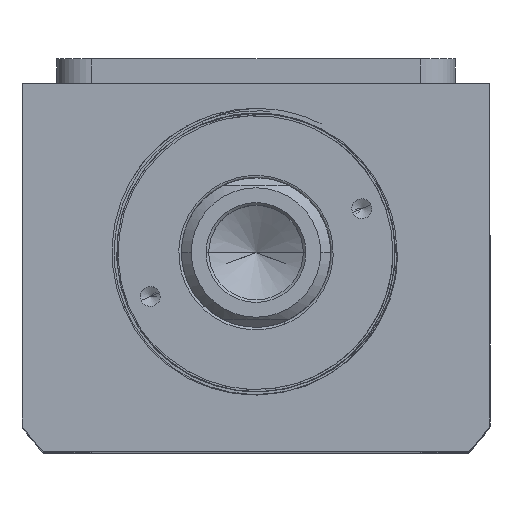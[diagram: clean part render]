
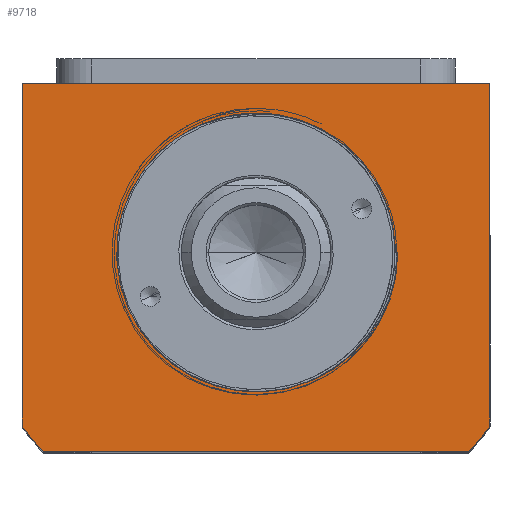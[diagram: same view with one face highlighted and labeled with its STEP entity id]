
A CAD part, top view. The second image highlights one B-rep face of the part: STEP entity #9718.
In plain terms, the highlighted planar face has unit normal (0, 0, 1).
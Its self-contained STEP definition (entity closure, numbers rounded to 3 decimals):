
#47 = VERTEX_POINT ( 'NONE', #6434 ) ;
#253 = ORIENTED_EDGE ( 'NONE', *, *, #9302, .T. ) ;
#400 = EDGE_CURVE ( 'NONE', #10443, #2448, #1902, .T. ) ;
#404 = LINE ( 'NONE', #2169, #8541 ) ;
#691 = CARTESIAN_POINT ( 'NONE',  ( 11.542, -25.544, 85. ) ) ;
#754 = DIRECTION ( 'NONE',  ( 1., 0., 0. ) ) ;
#823 = CIRCLE ( 'NONE', #9520, 58.5 ) ;
#844 = CARTESIAN_POINT ( 'NONE',  ( 10.89, -25.816, 85. ) ) ;
#921 = CARTESIAN_POINT ( 'NONE',  ( 47., 34., 85. ) ) ;
#1058 = CARTESIAN_POINT ( 'NONE',  ( 0., 0., 85. ) ) ;
#1174 = EDGE_LOOP ( 'NONE', ( #2404, #6249, #253 ) ) ;
#1426 = CARTESIAN_POINT ( 'NONE',  ( 0., 0., 85. ) ) ;
#1434 = ORIENTED_EDGE ( 'NONE', *, *, #400, .T. ) ;
#1558 = VERTEX_POINT ( 'NONE', #921 ) ;
#1571 = CARTESIAN_POINT ( 'NONE',  ( -47., -34.832, 85. ) ) ;
#1593 = ORIENTED_EDGE ( 'NONE', *, *, #6530, .T. ) ;
#1642 = CARTESIAN_POINT ( 'NONE',  ( 0., 0., 85. ) ) ;
#1656 = CARTESIAN_POINT ( 'NONE',  ( 28.485, -0.71, 85. ) ) ;
#1902 = CIRCLE ( 'NONE', #7553, 58.5 ) ;
#2135 = DIRECTION ( 'NONE',  ( 1., 0., 0. ) ) ;
#2169 = CARTESIAN_POINT ( 'NONE',  ( -47., 34., 85. ) ) ;
#2234 = ORIENTED_EDGE ( 'NONE', *, *, #9747, .T. ) ;
#2304 = LINE ( 'NONE', #1058, #8244 ) ;
#2404 = ORIENTED_EDGE ( 'NONE', *, *, #6887, .F. ) ;
#2448 = VERTEX_POINT ( 'NONE', #6478 ) ;
#2544 = CARTESIAN_POINT ( 'NONE',  ( 28.323, -2.832, 85. ) ) ;
#2549 = VERTEX_POINT ( 'NONE', #10246 ) ;
#2579 = CARTESIAN_POINT ( 'NONE',  ( 28.233, -3.538, 85. ) ) ;
#2623 = CARTESIAN_POINT ( 'NONE',  ( 24.178, -14.712, 85. ) ) ;
#2765 = VECTOR ( 'NONE', #754, 1000. ) ;
#2949 = ORIENTED_EDGE ( 'NONE', *, *, #4303, .T. ) ;
#3079 = VERTEX_POINT ( 'NONE', #9387 ) ;
#3086 = VERTEX_POINT ( 'NONE', #5854 ) ;
#3505 = DIRECTION ( 'NONE',  ( 0., 0., 1. ) ) ;
#3524 = CARTESIAN_POINT ( 'NONE',  ( 42.688, -40., 85. ) ) ;
#3886 = EDGE_CURVE ( 'NONE', #2448, #47, #7853, .T. ) ;
#3918 = FACE_BOUND ( 'NONE', #1174, .T. ) ;
#4283 = B_SPLINE_CURVE_WITH_KNOTS ( 'NONE', 3,
 ( #7996, #1656, #5317, #2544, #2579, #8028, #8856, #8894, #9756, #10680, #2623, #4361, #10646, #7908, #8933, #11437, #11558, #6190, #6224, #9796, #4288, #691, #844, #7874 ),
 .UNSPECIFIED., .F., .F.,
 ( 4, 2, 2, 2, 2, 2, 2, 2, 2, 2, 2, 4 ),
 ( 0., 0.002, 0.004, 0.009, 0.013, 0.017, 0.021, 0.023, 0.026, 0.03, 0.032, 0.034 ),
 .UNSPECIFIED. ) ;
#4288 = CARTESIAN_POINT ( 'NONE',  ( 12.831, -24.945, 85. ) ) ;
#4303 = EDGE_CURVE ( 'NONE', #3079, #10443, #6318, .T. ) ;
#4351 = EDGE_CURVE ( 'NONE', #47, #3086, #823, .T. ) ;
#4361 = CARTESIAN_POINT ( 'NONE',  ( 22.571, -17.007, 85. ) ) ;
#4387 = DIRECTION ( 'NONE',  ( 0., 1., 0. ) ) ;
#4410 = DIRECTION ( 'NONE',  ( 1., 0., 0. ) ) ;
#4428 = CARTESIAN_POINT ( 'NONE',  ( 28., 0., 85. ) ) ;
#4432 = DIRECTION ( 'NONE',  ( 1., 0., 0. ) ) ;
#5010 = VECTOR ( 'NONE', #4387, 1000. ) ;
#5317 = CARTESIAN_POINT ( 'NONE',  ( 28.449, -1.419, 85. ) ) ;
#5320 = CIRCLE ( 'NONE', #9064, 28. ) ;
#5466 = VECTOR ( 'NONE', #7845, 1000. ) ;
#5854 = CARTESIAN_POINT ( 'NONE',  ( 47., -34.832, 85. ) ) ;
#5959 = DIRECTION ( 'NONE',  ( 0., 0., -1. ) ) ;
#6190 = CARTESIAN_POINT ( 'NONE',  ( 16.467, -22.819, 85. ) ) ;
#6224 = CARTESIAN_POINT ( 'NONE',  ( 15.3, -23.593, 85. ) ) ;
#6249 = ORIENTED_EDGE ( 'NONE', *, *, #7454, .T. ) ;
#6251 = ORIENTED_EDGE ( 'NONE', *, *, #4351, .T. ) ;
#6318 = LINE ( 'NONE', #6944, #5466 ) ;
#6434 = CARTESIAN_POINT ( 'NONE',  ( 42.688, -40., 85. ) ) ;
#6478 = CARTESIAN_POINT ( 'NONE',  ( -42.688, -40., 85. ) ) ;
#6530 = EDGE_CURVE ( 'NONE', #3086, #1558, #6713, .T. ) ;
#6713 = LINE ( 'NONE', #7142, #5010 ) ;
#6868 = DIRECTION ( 'NONE',  ( 1., 0., 0. ) ) ;
#6887 = EDGE_CURVE ( 'NONE', #2549, #9458, #2304, .T. ) ;
#6944 = CARTESIAN_POINT ( 'NONE',  ( -47., -34.832, 85. ) ) ;
#7142 = CARTESIAN_POINT ( 'NONE',  ( 47., 34., 85. ) ) ;
#7242 = CARTESIAN_POINT ( 'NONE',  ( 0., 0., 85. ) ) ;
#7454 = EDGE_CURVE ( 'NONE', #2549, #11492, #4283, .T. ) ;
#7553 = AXIS2_PLACEMENT_3D ( 'NONE', #1642, #9825, #4432 ) ;
#7577 = AXIS2_PLACEMENT_3D ( 'NONE', #7585, #11062, #2135 ) ;
#7585 = CARTESIAN_POINT ( 'NONE',  ( 0., 0., 85. ) ) ;
#7635 = EDGE_LOOP ( 'NONE', ( #2234, #2949, #1434, #11283, #6251, #1593 ) ) ;
#7845 = DIRECTION ( 'NONE',  ( 0., -1., 0. ) ) ;
#7853 = LINE ( 'NONE', #3524, #2765 ) ;
#7874 = CARTESIAN_POINT ( 'NONE',  ( 10.232, -26.064, 85. ) ) ;
#7908 = CARTESIAN_POINT ( 'NONE',  ( 20.224, -19.631, 85. ) ) ;
#7996 = CARTESIAN_POINT ( 'NONE',  ( 28.495, 0., 85. ) ) ;
#8028 = CARTESIAN_POINT ( 'NONE',  ( 27.887, -5.628, 85. ) ) ;
#8244 = VECTOR ( 'NONE', #9144, 1000. ) ;
#8541 = VECTOR ( 'NONE', #11101, 1000. ) ;
#8856 = CARTESIAN_POINT ( 'NONE',  ( 27.555, -6.99, 85. ) ) ;
#8894 = CARTESIAN_POINT ( 'NONE',  ( 26.694, -9.657, 85. ) ) ;
#8933 = CARTESIAN_POINT ( 'NONE',  ( 19.714, -20.129, 85. ) ) ;
#9014 = CARTESIAN_POINT ( 'NONE',  ( 10.232, -26.064, 85. ) ) ;
#9064 = AXIS2_PLACEMENT_3D ( 'NONE', #1426, #5959, #6868 ) ;
#9144 = DIRECTION ( 'NONE',  ( -1., 0., 0. ) ) ;
#9302 = EDGE_CURVE ( 'NONE', #11492, #9458, #5320, .T. ) ;
#9387 = CARTESIAN_POINT ( 'NONE',  ( -47., 34., 85. ) ) ;
#9458 = VERTEX_POINT ( 'NONE', #4428 ) ;
#9520 = AXIS2_PLACEMENT_3D ( 'NONE', #7242, #3505, #4410 ) ;
#9718 = ADVANCED_FACE ( 'NONE', ( #3918, #10361 ), #11213, .T. ) ;
#9747 = EDGE_CURVE ( 'NONE', #1558, #3079, #404, .T. ) ;
#9756 = CARTESIAN_POINT ( 'NONE',  ( 26.163, -10.961, 85. ) ) ;
#9796 = CARTESIAN_POINT ( 'NONE',  ( 13.459, -24.624, 85. ) ) ;
#9825 = DIRECTION ( 'NONE',  ( 0., 0., 1. ) ) ;
#10246 = CARTESIAN_POINT ( 'NONE',  ( 28.495, 0., 85. ) ) ;
#10361 = FACE_OUTER_BOUND ( 'NONE', #7635, .T. ) ;
#10443 = VERTEX_POINT ( 'NONE', #1571 ) ;
#10646 = CARTESIAN_POINT ( 'NONE',  ( 21.684, -18.094, 85. ) ) ;
#10680 = CARTESIAN_POINT ( 'NONE',  ( 24.898, -13.504, 85. ) ) ;
#11062 = DIRECTION ( 'NONE',  ( 0., 0., 1. ) ) ;
#11101 = DIRECTION ( 'NONE',  ( -1., 0., 0. ) ) ;
#11213 = PLANE ( 'NONE',  #7577 ) ;
#11283 = ORIENTED_EDGE ( 'NONE', *, *, #3886, .T. ) ;
#11437 = CARTESIAN_POINT ( 'NONE',  ( 18.667, -21.077, 85. ) ) ;
#11492 = VERTEX_POINT ( 'NONE', #9014 ) ;
#11558 = CARTESIAN_POINT ( 'NONE',  ( 18.129, -21.529, 85. ) ) ;
